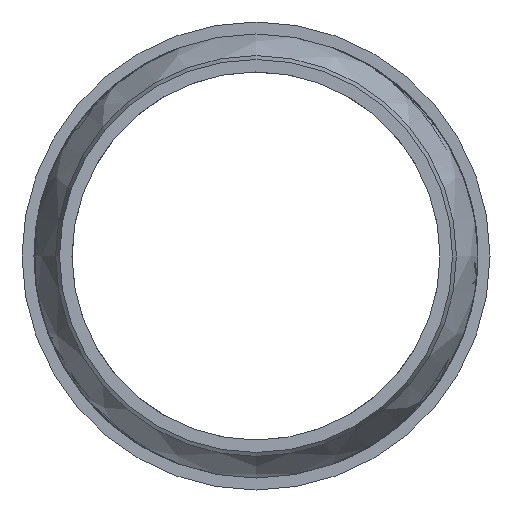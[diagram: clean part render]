
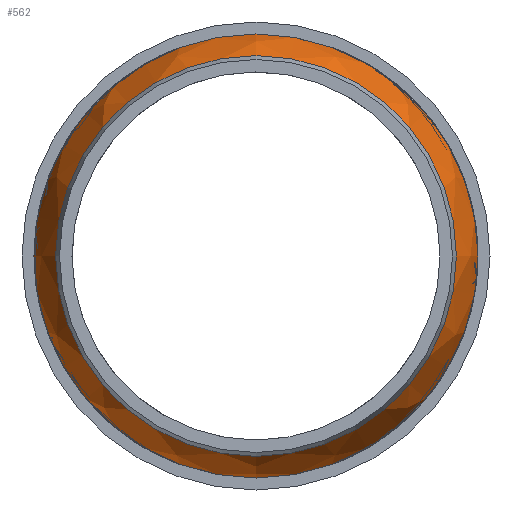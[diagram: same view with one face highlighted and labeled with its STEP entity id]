
A CAD part, left-side view. The second image highlights one B-rep face of the part: STEP entity #562.
In plain terms, the highlighted free-form (B-spline) face has degree [2, 2] with [3, 9] control points.
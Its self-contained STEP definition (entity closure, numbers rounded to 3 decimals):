
#11=(
BOUNDED_CURVE()
B_SPLINE_CURVE(2,(#2081,#2082,#2083),.UNSPECIFIED.,.F.,.F.)
B_SPLINE_CURVE_WITH_KNOTS((3,3),(0.138,0.646),
 .UNSPECIFIED.)
CURVE()
GEOMETRIC_REPRESENTATION_ITEM()
RATIONAL_B_SPLINE_CURVE((1.,0.968,1.))
REPRESENTATION_ITEM('')
);
#12=(
BOUNDED_SURFACE()
B_SPLINE_SURFACE(2,2,((#2054,#2055,#2056,#2057,#2058,#2059,#2060,#2061,
#2062),(#2063,#2064,#2065,#2066,#2067,#2068,#2069,#2070,#2071),(#2072,#2073,
#2074,#2075,#2076,#2077,#2078,#2079,#2080)),.UNSPECIFIED.,.F.,.T.,.F.)
B_SPLINE_SURFACE_WITH_KNOTS((3,3),(3,2,2,2,3),(-0.646,-0.138),
(-3.142,-1.571,0.,1.571,3.142),
 .UNSPECIFIED.)
GEOMETRIC_REPRESENTATION_ITEM()
RATIONAL_B_SPLINE_SURFACE(((1.,0.707,1.,0.707,1.,
0.707,1.,0.707,1.),(0.968,0.684,
0.968,0.684,0.968,0.684,
0.968,0.684,0.968),(1.,0.707,
1.,0.707,1.,0.707,1.,0.707,1.)))
REPRESENTATION_ITEM('')
SURFACE()
);
#147=FACE_OUTER_BOUND('',#207,.T.);
#207=EDGE_LOOP('',(#468,#469,#470,#471,#472,#473,#474));
#233=CIRCLE('',#603,61.05);
#234=CIRCLE('',#604,61.05);
#235=CIRCLE('',#605,61.05);
#241=CIRCLE('',#624,55.1);
#242=CIRCLE('',#625,55.1);
#275=VERTEX_POINT('',#1397);
#284=VERTEX_POINT('',#1789);
#285=VERTEX_POINT('',#1790);
#296=VERTEX_POINT('',#2050);
#297=VERTEX_POINT('',#2051);
#343=EDGE_CURVE('',#284,#285,#233,.T.);
#344=EDGE_CURVE('',#285,#275,#234,.T.);
#345=EDGE_CURVE('',#275,#284,#235,.T.);
#357=EDGE_CURVE('',#296,#297,#241,.T.);
#358=EDGE_CURVE('',#297,#296,#242,.T.);
#359=EDGE_CURVE('',#285,#297,#11,.T.);
#468=ORIENTED_EDGE('',*,*,#343,.F.);
#469=ORIENTED_EDGE('',*,*,#345,.F.);
#470=ORIENTED_EDGE('',*,*,#344,.F.);
#471=ORIENTED_EDGE('',*,*,#359,.T.);
#472=ORIENTED_EDGE('',*,*,#358,.T.);
#473=ORIENTED_EDGE('',*,*,#357,.T.);
#474=ORIENTED_EDGE('',*,*,#359,.F.);
#562=ADVANCED_FACE('',(#147),#12,.F.);
#603=AXIS2_PLACEMENT_3D('',#1791,#697,#698);
#604=AXIS2_PLACEMENT_3D('',#1792,#699,#700);
#605=AXIS2_PLACEMENT_3D('',#1793,#701,#702);
#624=AXIS2_PLACEMENT_3D('',#2052,#739,#740);
#625=AXIS2_PLACEMENT_3D('',#2053,#741,#742);
#697=DIRECTION('center_axis',(1.,0.,0.));
#698=DIRECTION('ref_axis',(0.,0.,
1.));
#699=DIRECTION('center_axis',(1.,0.,0.));
#700=DIRECTION('ref_axis',(0.,0.,
1.));
#701=DIRECTION('center_axis',(1.,0.,0.));
#702=DIRECTION('ref_axis',(0.,0.,
1.));
#739=DIRECTION('center_axis',(1.,0.,0.));
#740=DIRECTION('ref_axis',(0.,0.,
1.));
#741=DIRECTION('center_axis',(1.,0.,0.));
#742=DIRECTION('ref_axis',(0.,0.,
1.));
#1397=CARTESIAN_POINT('',(511.5,61.05,0.));
#1789=CARTESIAN_POINT('',(511.5,-61.05,0.));
#1790=CARTESIAN_POINT('',(511.5,0.,-61.05));
#1791=CARTESIAN_POINT('Origin',(511.5,0.,
0.));
#1792=CARTESIAN_POINT('Origin',(511.5,0.,
0.));
#1793=CARTESIAN_POINT('Origin',(511.5,0.,
0.));
#2050=CARTESIAN_POINT('',(497.1,-55.1,0.));
#2051=CARTESIAN_POINT('',(497.1,0.,-55.1));
#2052=CARTESIAN_POINT('Origin',(497.1,0.,
0.));
#2053=CARTESIAN_POINT('Origin',(497.1,0.,
0.));
#2054=CARTESIAN_POINT('Ctrl Pts',(497.1,0.,
-55.1));
#2055=CARTESIAN_POINT('Ctrl Pts',(497.1,55.1,-55.1));
#2056=CARTESIAN_POINT('Ctrl Pts',(497.1,55.1,0.));
#2057=CARTESIAN_POINT('Ctrl Pts',(497.1,55.1,55.1));
#2058=CARTESIAN_POINT('Ctrl Pts',(497.1,0.,
55.1));
#2059=CARTESIAN_POINT('Ctrl Pts',(497.1,-55.1,55.1));
#2060=CARTESIAN_POINT('Ctrl Pts',(497.1,-55.1,0.));
#2061=CARTESIAN_POINT('Ctrl Pts',(497.1,-55.1,-55.1));
#2062=CARTESIAN_POINT('Ctrl Pts',(497.1,0.,
-55.1));
#2063=CARTESIAN_POINT('Ctrl Pts',(503.528,0.,
-59.944));
#2064=CARTESIAN_POINT('Ctrl Pts',(503.528,59.944,-59.944));
#2065=CARTESIAN_POINT('Ctrl Pts',(503.528,59.944,0.));
#2066=CARTESIAN_POINT('Ctrl Pts',(503.528,59.944,59.944));
#2067=CARTESIAN_POINT('Ctrl Pts',(503.528,0.,
59.944));
#2068=CARTESIAN_POINT('Ctrl Pts',(503.528,-59.944,59.944));
#2069=CARTESIAN_POINT('Ctrl Pts',(503.528,-59.944,0.));
#2070=CARTESIAN_POINT('Ctrl Pts',(503.528,-59.944,-59.944));
#2071=CARTESIAN_POINT('Ctrl Pts',(503.528,0.,
-59.944));
#2072=CARTESIAN_POINT('Ctrl Pts',(511.5,0.,
-61.05));
#2073=CARTESIAN_POINT('Ctrl Pts',(511.5,61.05,-61.05));
#2074=CARTESIAN_POINT('Ctrl Pts',(511.5,61.05,0.));
#2075=CARTESIAN_POINT('Ctrl Pts',(511.5,61.05,61.05));
#2076=CARTESIAN_POINT('Ctrl Pts',(511.5,0.,
61.05));
#2077=CARTESIAN_POINT('Ctrl Pts',(511.5,-61.05,61.05));
#2078=CARTESIAN_POINT('Ctrl Pts',(511.5,-61.05,0.));
#2079=CARTESIAN_POINT('Ctrl Pts',(511.5,-61.05,-61.05));
#2080=CARTESIAN_POINT('Ctrl Pts',(511.5,0.,
-61.05));
#2081=CARTESIAN_POINT('Ctrl Pts',(511.5,0.,
-61.05));
#2082=CARTESIAN_POINT('Ctrl Pts',(503.528,0.,
-59.944));
#2083=CARTESIAN_POINT('Ctrl Pts',(497.1,0.,
-55.1));
